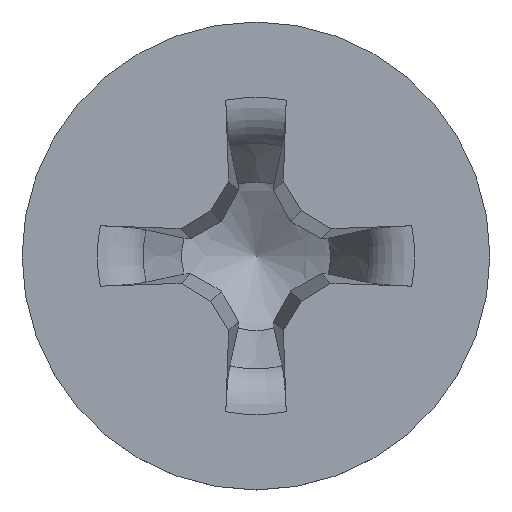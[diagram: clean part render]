
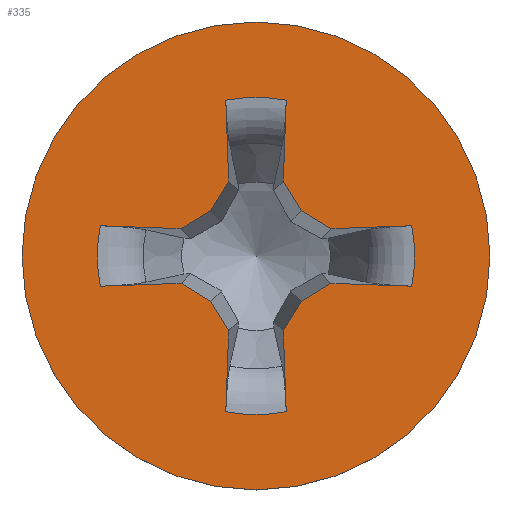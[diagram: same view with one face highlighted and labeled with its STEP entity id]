
A CAD part, top view. The second image highlights one B-rep face of the part: STEP entity #335.
In plain terms, the highlighted planar face has unit normal (0, 0, 1).
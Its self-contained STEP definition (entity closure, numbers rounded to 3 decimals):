
#104=LINE('',#3569,#196);
#105=LINE('',#3574,#197);
#106=LINE('',#3576,#198);
#107=LINE('',#3578,#199);
#108=LINE('',#3580,#200);
#109=LINE('',#3584,#201);
#110=LINE('',#3586,#202);
#111=LINE('',#3588,#203);
#112=LINE('',#3590,#204);
#113=LINE('',#3594,#205);
#114=LINE('',#3596,#206);
#115=LINE('',#3598,#207);
#116=LINE('',#3600,#208);
#117=LINE('',#3604,#209);
#118=LINE('',#3606,#210);
#119=LINE('',#3608,#211);
#196=VECTOR('',#1754,1.);
#197=VECTOR('',#1757,1.);
#198=VECTOR('',#1758,1.);
#199=VECTOR('',#1759,1.);
#200=VECTOR('',#1760,1.);
#201=VECTOR('',#1763,1.);
#202=VECTOR('',#1764,1.);
#203=VECTOR('',#1765,1.);
#204=VECTOR('',#1766,1.);
#205=VECTOR('',#1769,1.);
#206=VECTOR('',#1770,1.);
#207=VECTOR('',#1771,1.);
#208=VECTOR('',#1772,1.);
#209=VECTOR('',#1775,1.);
#210=VECTOR('',#1776,1.);
#211=VECTOR('',#1777,1.);
#289=PLANE('',#1689);
#316=FACE_BOUND('',#546,.T.);
#317=FACE_BOUND('',#547,.T.);
#335=ADVANCED_FACE('',(#316,#317),#289,.F.);
#546=EDGE_LOOP('',(#830,#831,#832,#833,#834,#835,#836,#837,#838,#839,#840,
#841,#842,#843,#844,#845,#846,#847,#848,#849));
#547=EDGE_LOOP('',(#850));
#830=ORIENTED_EDGE('',*,*,#1456,.F.);
#831=ORIENTED_EDGE('',*,*,#1457,.T.);
#832=ORIENTED_EDGE('',*,*,#1458,.F.);
#833=ORIENTED_EDGE('',*,*,#1459,.F.);
#834=ORIENTED_EDGE('',*,*,#1460,.F.);
#835=ORIENTED_EDGE('',*,*,#1461,.F.);
#836=ORIENTED_EDGE('',*,*,#1462,.T.);
#837=ORIENTED_EDGE('',*,*,#1463,.F.);
#838=ORIENTED_EDGE('',*,*,#1464,.F.);
#839=ORIENTED_EDGE('',*,*,#1465,.F.);
#840=ORIENTED_EDGE('',*,*,#1466,.F.);
#841=ORIENTED_EDGE('',*,*,#1467,.T.);
#842=ORIENTED_EDGE('',*,*,#1468,.F.);
#843=ORIENTED_EDGE('',*,*,#1469,.F.);
#844=ORIENTED_EDGE('',*,*,#1470,.F.);
#845=ORIENTED_EDGE('',*,*,#1471,.F.);
#846=ORIENTED_EDGE('',*,*,#1472,.T.);
#847=ORIENTED_EDGE('',*,*,#1473,.F.);
#848=ORIENTED_EDGE('',*,*,#1474,.F.);
#849=ORIENTED_EDGE('',*,*,#1475,.F.);
#850=ORIENTED_EDGE('',*,*,#1476,.F.);
#1305=VERTEX_POINT('',#3570);
#1306=VERTEX_POINT('',#3571);
#1307=VERTEX_POINT('',#3573);
#1308=VERTEX_POINT('',#3575);
#1309=VERTEX_POINT('',#3577);
#1310=VERTEX_POINT('',#3579);
#1311=VERTEX_POINT('',#3581);
#1312=VERTEX_POINT('',#3583);
#1313=VERTEX_POINT('',#3585);
#1314=VERTEX_POINT('',#3587);
#1315=VERTEX_POINT('',#3589);
#1316=VERTEX_POINT('',#3591);
#1317=VERTEX_POINT('',#3593);
#1318=VERTEX_POINT('',#3595);
#1319=VERTEX_POINT('',#3597);
#1320=VERTEX_POINT('',#3599);
#1321=VERTEX_POINT('',#3601);
#1322=VERTEX_POINT('',#3603);
#1323=VERTEX_POINT('',#3605);
#1324=VERTEX_POINT('',#3607);
#1325=VERTEX_POINT('',#3610);
#1456=EDGE_CURVE('',#1305,#1306,#104,.T.);
#1457=EDGE_CURVE('',#1305,#1307,#1656,.T.);
#1458=EDGE_CURVE('',#1308,#1307,#105,.T.);
#1459=EDGE_CURVE('',#1309,#1308,#106,.T.);
#1460=EDGE_CURVE('',#1310,#1309,#107,.T.);
#1461=EDGE_CURVE('',#1311,#1310,#108,.T.);
#1462=EDGE_CURVE('',#1311,#1312,#1657,.T.);
#1463=EDGE_CURVE('',#1313,#1312,#109,.T.);
#1464=EDGE_CURVE('',#1314,#1313,#110,.T.);
#1465=EDGE_CURVE('',#1315,#1314,#111,.T.);
#1466=EDGE_CURVE('',#1316,#1315,#112,.T.);
#1467=EDGE_CURVE('',#1316,#1317,#1658,.T.);
#1468=EDGE_CURVE('',#1318,#1317,#113,.T.);
#1469=EDGE_CURVE('',#1319,#1318,#114,.T.);
#1470=EDGE_CURVE('',#1320,#1319,#115,.T.);
#1471=EDGE_CURVE('',#1321,#1320,#116,.T.);
#1472=EDGE_CURVE('',#1321,#1322,#1659,.T.);
#1473=EDGE_CURVE('',#1323,#1322,#117,.T.);
#1474=EDGE_CURVE('',#1324,#1323,#118,.T.);
#1475=EDGE_CURVE('',#1306,#1324,#119,.T.);
#1476=EDGE_CURVE('',#1325,#1325,#1660,.T.);
#1656=CIRCLE('',#1684,5.424);
#1657=CIRCLE('',#1685,5.424);
#1658=CIRCLE('',#1686,5.424);
#1659=CIRCLE('',#1687,5.424);
#1660=CIRCLE('',#1688,8.);
#1684=AXIS2_PLACEMENT_3D('',#3572,#1755,#1756);
#1685=AXIS2_PLACEMENT_3D('',#3582,#1761,#1762);
#1686=AXIS2_PLACEMENT_3D('',#3592,#1767,#1768);
#1687=AXIS2_PLACEMENT_3D('',#3602,#1773,#1774);
#1688=AXIS2_PLACEMENT_3D('',#3609,#1778,#1779);
#1689=AXIS2_PLACEMENT_3D('',#3611,#1780,#1781);
#1754=DIRECTION('',(-0.999,-0.035,0.));
#1755=DIRECTION('',(0.,0.,-1.));
#1756=DIRECTION('',(-1.,0.,0.));
#1757=DIRECTION('',(0.999,-0.035,0.));
#1758=DIRECTION('',(0.853,0.522,0.));
#1759=DIRECTION('',(0.522,0.853,0.));
#1760=DIRECTION('',(-0.035,0.999,0.));
#1761=DIRECTION('',(0.,0.,-1.));
#1762=DIRECTION('',(-1.,0.,0.));
#1763=DIRECTION('',(-0.035,-0.999,0.));
#1764=DIRECTION('',(0.522,-0.853,0.));
#1765=DIRECTION('',(0.853,-0.522,0.));
#1766=DIRECTION('',(0.999,0.035,0.));
#1767=DIRECTION('',(0.,0.,-1.));
#1768=DIRECTION('',(-1.,0.,0.));
#1769=DIRECTION('',(-0.999,0.035,0.));
#1770=DIRECTION('',(-0.853,-0.522,0.));
#1771=DIRECTION('',(-0.522,-0.853,0.));
#1772=DIRECTION('',(0.035,-0.999,0.));
#1773=DIRECTION('',(0.,0.,-1.));
#1774=DIRECTION('',(-1.,0.,0.));
#1775=DIRECTION('',(0.035,0.999,0.));
#1776=DIRECTION('',(-0.522,0.853,0.));
#1777=DIRECTION('',(-0.853,0.522,0.));
#1778=DIRECTION('',(0.,0.,-1.));
#1779=DIRECTION('',(-1.,0.,0.));
#1780=DIRECTION('',(0.,0.,-1.));
#1781=DIRECTION('',(-1.,0.,0.));
#3569=CARTESIAN_POINT('',(-0.03,0.845,5.815));
#3570=CARTESIAN_POINT('',(5.325,1.032,5.815));
#3571=CARTESIAN_POINT('',(2.563,0.936,5.815));
#3572=CARTESIAN_POINT('',(0.,0.,5.815));
#3573=CARTESIAN_POINT('',(5.325,-1.032,5.815));
#3574=CARTESIAN_POINT('',(-0.03,-0.845,5.815));
#3575=CARTESIAN_POINT('',(2.563,-0.936,5.815));
#3576=CARTESIAN_POINT('',(1.117,-1.822,5.815));
#3577=CARTESIAN_POINT('',(1.554,-1.554,5.815));
#3578=CARTESIAN_POINT('',(1.822,-1.117,5.815));
#3579=CARTESIAN_POINT('',(0.936,-2.563,5.815));
#3580=CARTESIAN_POINT('',(0.845,0.03,5.815));
#3581=CARTESIAN_POINT('',(1.032,-5.325,5.815));
#3582=CARTESIAN_POINT('',(0.,0.,5.815));
#3583=CARTESIAN_POINT('',(-1.032,-5.325,5.815));
#3584=CARTESIAN_POINT('',(-0.845,0.03,5.815));
#3585=CARTESIAN_POINT('',(-0.936,-2.563,5.815));
#3586=CARTESIAN_POINT('',(-1.822,-1.117,5.815));
#3587=CARTESIAN_POINT('',(-1.554,-1.554,5.815));
#3588=CARTESIAN_POINT('',(-1.117,-1.822,5.815));
#3589=CARTESIAN_POINT('',(-2.563,-0.936,5.815));
#3590=CARTESIAN_POINT('',(0.03,-0.845,5.815));
#3591=CARTESIAN_POINT('',(-5.325,-1.032,5.815));
#3592=CARTESIAN_POINT('',(0.,0.,5.815));
#3593=CARTESIAN_POINT('',(-5.325,1.032,5.815));
#3594=CARTESIAN_POINT('',(0.03,0.845,5.815));
#3595=CARTESIAN_POINT('',(-2.563,0.936,5.815));
#3596=CARTESIAN_POINT('',(-1.117,1.822,5.815));
#3597=CARTESIAN_POINT('',(-1.554,1.554,5.815));
#3598=CARTESIAN_POINT('',(-1.822,1.117,5.815));
#3599=CARTESIAN_POINT('',(-0.936,2.563,5.815));
#3600=CARTESIAN_POINT('',(-0.845,-0.03,5.815));
#3601=CARTESIAN_POINT('',(-1.032,5.325,5.815));
#3602=CARTESIAN_POINT('',(0.,0.,5.815));
#3603=CARTESIAN_POINT('',(1.032,5.325,5.815));
#3604=CARTESIAN_POINT('',(0.845,-0.03,5.815));
#3605=CARTESIAN_POINT('',(0.936,2.563,5.815));
#3606=CARTESIAN_POINT('',(1.822,1.117,5.815));
#3607=CARTESIAN_POINT('',(1.554,1.554,5.815));
#3608=CARTESIAN_POINT('',(1.117,1.822,5.815));
#3609=CARTESIAN_POINT('',(0.,0.,5.815));
#3610=CARTESIAN_POINT('',(-8.,0.,5.815));
#3611=CARTESIAN_POINT('',(0.,0.,5.815));
